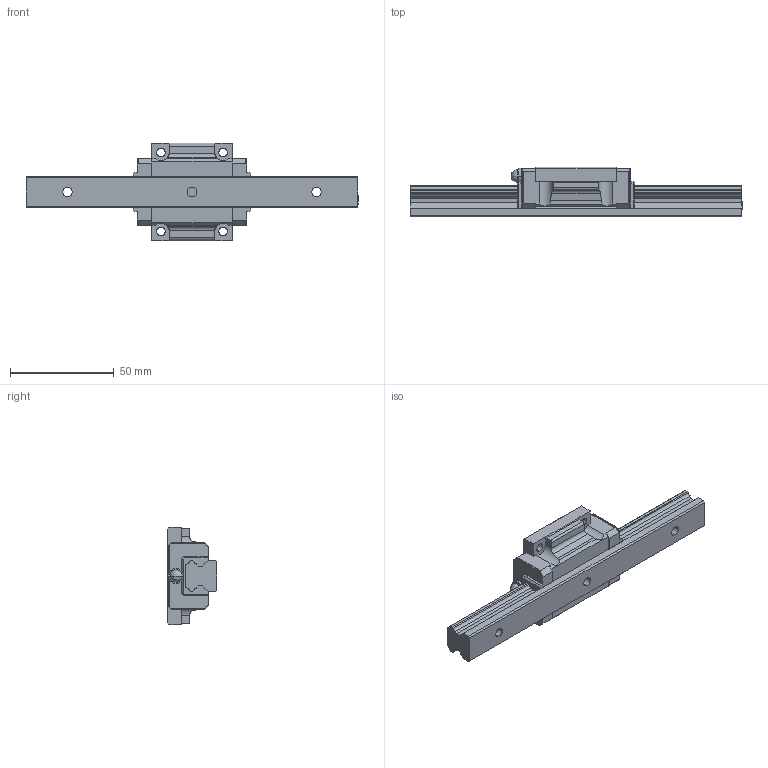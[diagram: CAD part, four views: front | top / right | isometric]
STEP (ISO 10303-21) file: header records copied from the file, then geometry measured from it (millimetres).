
FILE_DESCRIPTION (( 'STEP AP203' ), '1' );
FILE_NAME ('HSV15CSS.STEP', '2016-03-14T13:40:57', ( 'EOS' ), ( '' ), 'SwSTEP 2.0', 'SolidWorks 2016', '' );
FILE_SCHEMA (( 'CONFIG_CONTROL_DESIGN' ));
Length unit declared in the file: millimetre
Products named in the file (4): 1; HSV15CSS; 3; HSV15C
Assembly tree (3 placements, depth 2):
  HSV15CSS
    1
    HSV15C
    3
Bounding box: 160 x 24 x 47 mm (x, y, z)
Volume: 60417.1 mm3; surface area: 20817.7 mm2
Topology: 3 solids, 3 shells, 218 faces, 598 edges, 391 vertices
Faces by surface type: plane 158, cylinder 50, cone 8, bspline 2
Entity records: 7350 total; most frequent: CARTESIAN_POINT 1343, ORIENTED_EDGE 1192, DIRECTION 1128, EDGE_CURVE 596, LINE 472, VECTOR 472, VERTEX_POINT 391, AXIS2_PLACEMENT_3D 328
